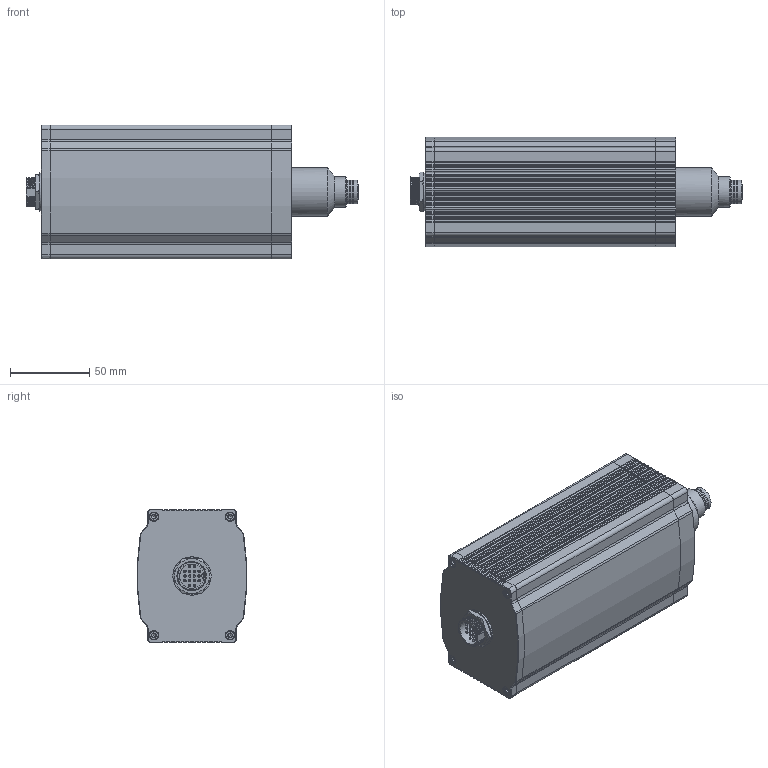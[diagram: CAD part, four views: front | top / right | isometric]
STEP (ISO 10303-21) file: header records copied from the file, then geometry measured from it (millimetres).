
FILE_DESCRIPTION(/* description */ (''),/* implementation_level */ '2;1');
FILE_NAME(/* name */ 'FI1040DC-HA.stp',/* time_stamp */ '2023-09-21T18:05:15+08:00',/* author */ (''),/* organization */ (''),/* preprocessor_version */ 'ST-DEVELOPER v16.7',/* originating_system */ 'SIEMENS PLM Software NX 12.0',/* authorisation */ '');
FILE_SCHEMA (('AUTOMOTIVE_DESIGN { 1 0 10303 214 3 1 1 1 }'));
Length unit declared in the file: millimetre
Products named in the file (1): Admi71E0876Fbrq4
Bounding box: 210.12 x 69.16 x 84.5 mm (x, y, z)
Volume: 505206.5 mm3; surface area: 158566.6 mm2
Topology: 21 solids, 24 shells, 1471 faces, 3723 edges, 2355 vertices
Faces by surface type: plane 482, cylinder 430, bspline 181, extrusion 142, cone 132, torus 64, sphere 40
Full cylindrical faces by diameter (mm): 1.5 x16, 3 x8, 3.2 x8, 4.2 x6, 4.826 x4, 5.5 x4, 5.86 x8, 6 x8, 8.5 x4, 10.2 x1, 11 x2, 11.1 x1, 12.2 x1, 12.8 x1, 14 x2, 14.2 x3, 15 x3, 15.4 x1, 16.2 x1, 16.8 x1, 18 x2, 19 x1, 19.5 x1, 22.6 x1, 24 x1, 24.2 x1, 31 x1, 31.1 x1, 50 x1
Entity records: 80262 total; most frequent: CARTESIAN_POINT 48366, ORIENTED_EDGE 6716, DIRECTION 5704, EDGE_CURVE 3362, VERTEX_POINT 2179, AXIS2_PLACEMENT_3D 2165, EDGE_LOOP 1737, ADVANCED_FACE 1471
